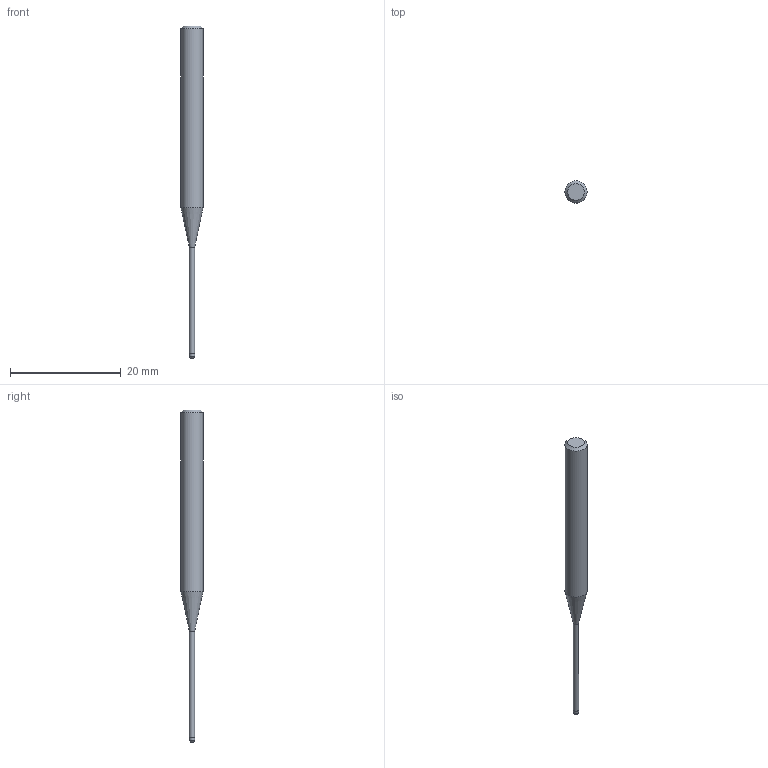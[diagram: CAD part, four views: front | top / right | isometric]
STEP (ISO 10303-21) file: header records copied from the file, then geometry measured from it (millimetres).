
FILE_DESCRIPTION((''),'2;1');
FILE_NAME('C:\Users\nsx150\AppData\Local\Temp\Mastercam 2021\17T8Q8S9EB\TEMP.step','2021-04-21T14:34:39',(''),(''),'STEP Write','Mastercam 2021 ... CNC Software, Inc.','');
FILE_SCHEMA(('AUTOMOTIVE_DESIGN'));
Length unit declared in the file: millimetre
Products named in the file (1): None
Bounding box: 4 x 4 x 60 mm (x, y, z)
Volume: 464.1 mm3; surface area: 539.7 mm2
Topology: 2 solids, 2 shells, 10 faces, 14 edges, 8 vertices
Faces by surface type: plane 4, cylinder 3, cone 2, torus 1
Full cylindrical faces by diameter (mm): 0.95 x1, 1 x1, 4 x1
Entity records: 232 total; most frequent: DIRECTION 40, CARTESIAN_POINT 28, AXIS2_PLACEMENT_3D 20, ORIENTED_EDGE 16, EDGE_LOOP 16, STYLED_ITEM 13, ADVANCED_FACE 10, FACE_BOUND 10
